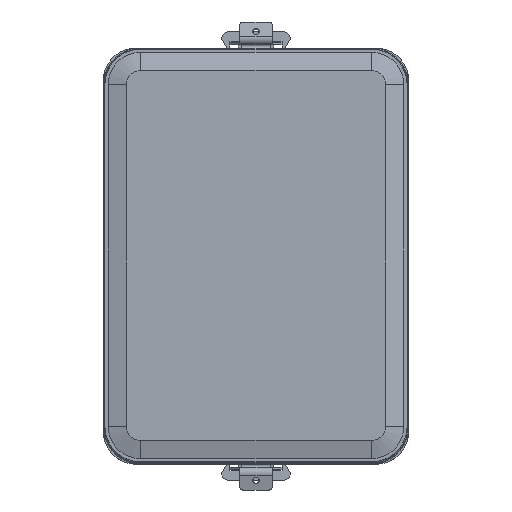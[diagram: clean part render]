
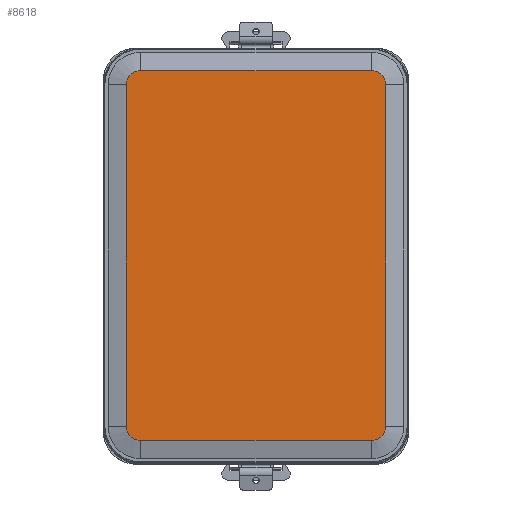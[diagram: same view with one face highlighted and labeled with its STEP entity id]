
A CAD part, top view. The second image highlights one B-rep face of the part: STEP entity #8618.
In plain terms, the highlighted planar face has unit normal (0, 0, 1).
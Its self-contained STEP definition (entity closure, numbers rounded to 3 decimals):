
#8618=ADVANCED_FACE('',(#16229),#16231,.T.);
#16229=FACE_BOUND('',#16230,.T.);
#16230=EDGE_LOOP('',(#28902,#28903,#28904,#28905,#28906,#28907,#28908,#28909));
#16231=PLANE('',#16232);
#16232=AXIS2_PLACEMENT_3D('',#16233,#16234,#16235);
#16233=CARTESIAN_POINT('',(0.,0.,127.5));
#16234=DIRECTION('',(0.,0.,1.));
#16235=DIRECTION('',(1.,0.,0.));
#28902=ORIENTED_EDGE('',*,*,#31358,.T.);
#28903=ORIENTED_EDGE('',*,*,#31356,.T.);
#28904=ORIENTED_EDGE('',*,*,#31354,.T.);
#28905=ORIENTED_EDGE('',*,*,#31352,.T.);
#28906=ORIENTED_EDGE('',*,*,#31350,.T.);
#28907=ORIENTED_EDGE('',*,*,#31348,.T.);
#28908=ORIENTED_EDGE('',*,*,#31346,.T.);
#28909=ORIENTED_EDGE('',*,*,#31343,.T.);
#31343=EDGE_CURVE('',#35213,#35214,#35215,.F.);
#31346=EDGE_CURVE('',#35218,#35213,#35219,.T.);
#31348=EDGE_CURVE('',#35221,#35218,#35222,.F.);
#31350=EDGE_CURVE('',#35224,#35221,#35225,.T.);
#31352=EDGE_CURVE('',#35227,#35224,#35228,.F.);
#31354=EDGE_CURVE('',#35230,#35227,#35231,.T.);
#31356=EDGE_CURVE('',#35233,#35230,#35234,.F.);
#31358=EDGE_CURVE('',#35214,#35233,#35236,.T.);
#35213=VERTEX_POINT('',#45068);
#35214=VERTEX_POINT('',#45069);
#35215=LINE('',#45070,#45071);
#35218=VERTEX_POINT('',#45079);
#35219=CIRCLE('',#45080,4.402);
#35221=VERTEX_POINT('',#45087);
#35222=LINE('',#45088,#45089);
#35224=VERTEX_POINT('',#45094);
#35225=CIRCLE('',#45095,4.402);
#35227=VERTEX_POINT('',#45102);
#35228=LINE('',#45103,#45104);
#35230=VERTEX_POINT('',#45109);
#35231=CIRCLE('',#45110,4.402);
#35233=VERTEX_POINT('',#45117);
#35234=LINE('',#45118,#45119);
#35236=CIRCLE('',#45124,4.402);
#45068=CARTESIAN_POINT('',(-35.5,-56.902,127.5));
#45069=CARTESIAN_POINT('',(35.5,-56.902,127.5));
#45070=CARTESIAN_POINT('',(35.5,-56.902,127.5));
#45071=VECTOR('',#45072,1.);
#45072=DIRECTION('',(-1.,0.,0.));
#45079=CARTESIAN_POINT('',(-39.902,-52.5,127.5));
#45080=AXIS2_PLACEMENT_3D('',#45081,#45082,#45083);
#45081=CARTESIAN_POINT('',(-35.5,-52.5,127.5));
#45082=DIRECTION('',(0.,-0.,1.));
#45083=DIRECTION('',(-1.,0.,0.));
#45087=CARTESIAN_POINT('',(-39.902,52.5,127.5));
#45088=CARTESIAN_POINT('',(-39.902,-52.5,127.5));
#45089=VECTOR('',#45090,1.);
#45090=DIRECTION('',(0.,1.,0.));
#45094=CARTESIAN_POINT('',(-35.5,56.902,127.5));
#45095=AXIS2_PLACEMENT_3D('',#45096,#45097,#45098);
#45096=CARTESIAN_POINT('',(-35.5,52.5,127.5));
#45097=DIRECTION('',(0.,-0.,1.));
#45098=DIRECTION('',(0.,1.,0.));
#45102=CARTESIAN_POINT('',(35.5,56.902,127.5));
#45103=CARTESIAN_POINT('',(-35.5,56.902,127.5));
#45104=VECTOR('',#45105,1.);
#45105=DIRECTION('',(1.,0.,0.));
#45109=CARTESIAN_POINT('',(39.902,52.5,127.5));
#45110=AXIS2_PLACEMENT_3D('',#45111,#45112,#45113);
#45111=CARTESIAN_POINT('',(35.5,52.5,127.5));
#45112=DIRECTION('',(-0.,0.,1.));
#45113=DIRECTION('',(1.,0.,0.));
#45117=CARTESIAN_POINT('',(39.902,-52.5,127.5));
#45118=CARTESIAN_POINT('',(39.902,52.5,127.5));
#45119=VECTOR('',#45120,1.);
#45120=DIRECTION('',(0.,-1.,0.));
#45124=AXIS2_PLACEMENT_3D('',#45125,#45126,#45127);
#45125=CARTESIAN_POINT('',(35.5,-52.5,127.5));
#45126=DIRECTION('',(-0.,0.,1.));
#45127=DIRECTION('',(0.,-1.,0.));
